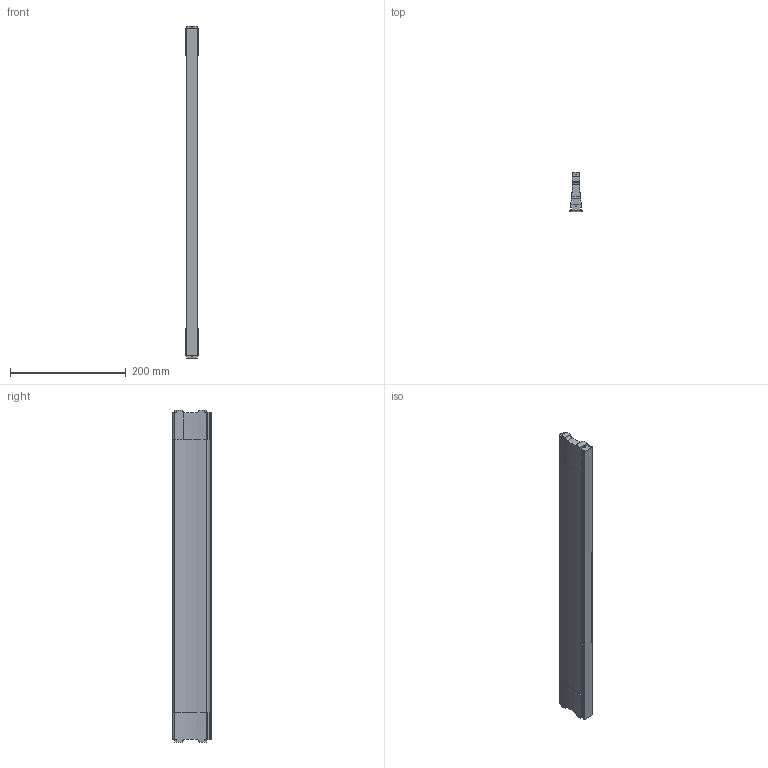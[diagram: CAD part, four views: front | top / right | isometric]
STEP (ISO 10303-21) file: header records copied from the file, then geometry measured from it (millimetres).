
FILE_DESCRIPTION (( 'STEP AP214' ), '1' );
FILE_NAME ('Traverse DWD XP NL600 Mass X568,4_montiert.step', '2010-09-21T13:16:50', ( 'grass' ), ( '' ), 'SwSTEP 2.0', 'SolidWorks 2010', '' );
FILE_SCHEMA (( 'AUTOMOTIVE_DESIGN' ));
Length unit declared in the file: millimetre
Products named in the file (1): Traverse DWD XP NL600 Mass X568,4_montiert
Bounding box: 21.4 x 67.5 x 573 mm (x, y, z)
Volume: 476641.6 mm3; surface area: 99617.3 mm2
Topology: 1 solids, 1 shells, 125 faces, 369 edges, 246 vertices
Faces by surface type: cylinder 68, plane 57
Entity records: 4377 total; most frequent: CARTESIAN_POINT 879, DIRECTION 753, ORIENTED_EDGE 738, EDGE_CURVE 369, AXIS2_PLACEMENT_3D 268, VERTEX_POINT 246, LINE 217, VECTOR 217
